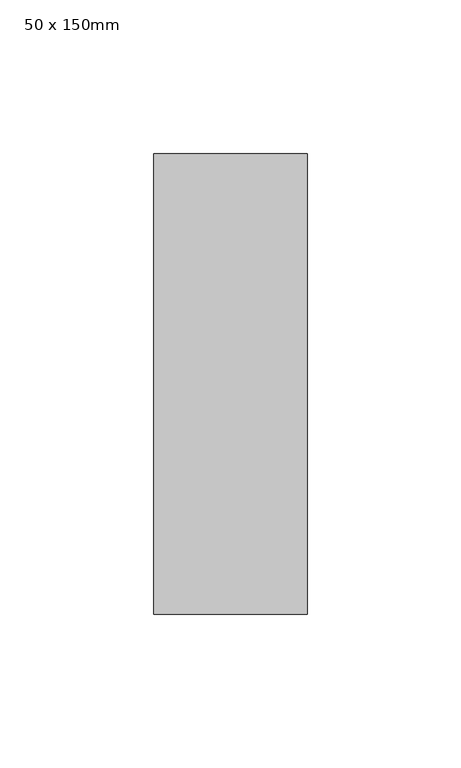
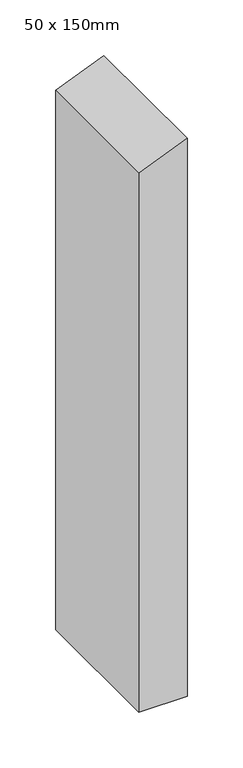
"""IFC4 building model written with IfcOpenShell, lengths in millimetres: member geometry, Prostokątny szpros : 50 x 150mm."""

from ifc_helpers import new_model, si_unit, frame, origin, place, context, project, spatial, polyline, outline, extrude, source, transform, mapped, element, save


def member_50_x_150mm_77f7ea4a(model_context):
    return source(origin(), model_context, "Body", "SweptSolid", [
        extrude(outline(polyline([(0.0, 0.0), (-20.7106781, -50.0), (-613.1132761, -50.0), (-613.1132761, 0.0), (0.0, 0.0)])), frame((0.0, -75.0, 0.0), z_axis=(0.0, 1.0, 0.0), x_axis=(0.0, 0.0, 1.0)), (0.0, 0.0, 1.0), 150.0),
    ])


if __name__ == "__main__":
    model = new_model("IFC4")
    model_context = context("Model", 3, world=origin())
    ifc_project = project(units=[si_unit("LENGTHUNIT", "METRE", prefix="MILLI")], contexts=[model_context])
    site = spatial("IfcSite", under=ifc_project)
    building = spatial("IfcBuilding", under=site)
    placement = place(None, origin())
    member_50_x_150mm_shape = member_50_x_150mm_77f7ea4a(model_context)
    element("IfcMember", 1, ObjectType="Prostokątny szpros : 50 x 150mm", at=placement, inside=building, context=model_context, shape_type="MappedRepresentation", body=[
        mapped(member_50_x_150mm_shape, transform((0.0, 0.0, 0.0), x_axis=(1.0, 0.0, 0.0), y_axis=(0.0, 1.0, 0.0), z_axis=(0.0, 0.0, 1.0))),
    ])
    save(model, "model.ifc")
